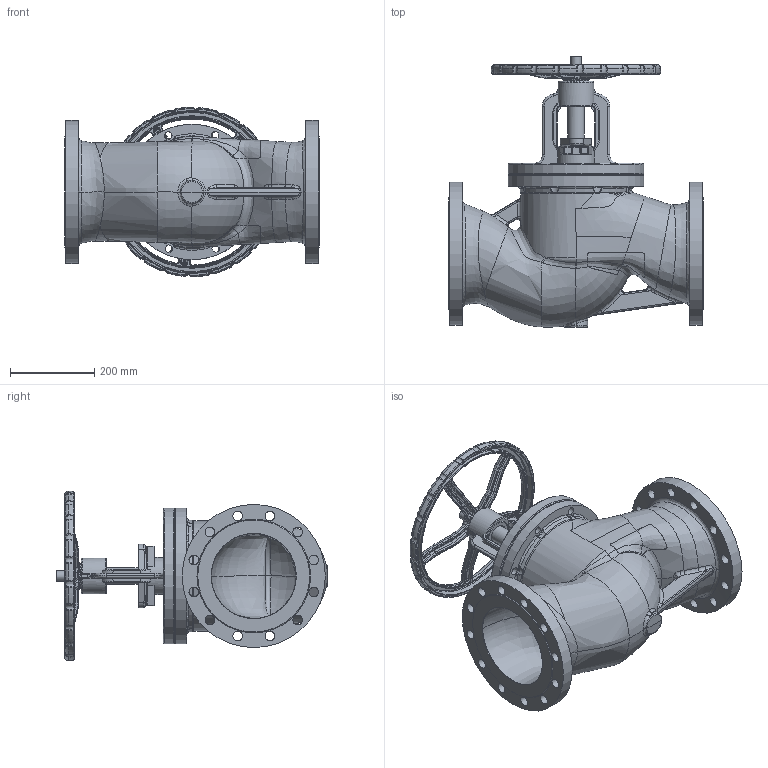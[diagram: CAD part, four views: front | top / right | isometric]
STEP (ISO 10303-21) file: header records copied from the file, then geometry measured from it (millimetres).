
FILE_DESCRIPTION(/* description */ ('STEP AP214'),/* implementation_level */ '2;1');
FILE_NAME(/* name */ '',/* time_stamp */ '2025-03-10T14:40:57+07:00',/* author */ ('Eva'),/* organization */ (''),/* preprocessor_version */ 'ST-DEVELOPER v20',/* originating_system */ 'Autodesk Inventor 2025',/* authorisation */ '');
FILE_SCHEMA (('AUTOMOTIVE_DESIGN { 1 0 10303 214 3 1 1 }'));
Products named in the file (7): 截止阀200; 200; 截止阀200阀盖; 德标截止阀杆螺母200; 德标截止压盖200; 德标截止200阀杆; YD.T-616-400.01-200-Q-手轮
Assembly tree (6 placements, depth 2):
  截止阀200
    200
    截止阀200阀盖
    德标截止阀杆螺母200
    德标截止压盖200
    德标截止200阀杆
    YD.T-616-400.01-200-Q-手轮
Bounding box: 604 x 643.5 x 402.73 mm (x, y, z)
Volume: 16184185.2 mm3; surface area: 2027822.5 mm2
Topology: 10 solids, 11 shells, 1943 faces, 5309 edges, 2911 vertices
Faces by surface type: bspline 948, plane 360, cylinder 331, torus 239, cone 36, sphere 29
Full cylindrical faces by diameter (mm): 18 x18, 23 x24, 24 x1, 27 x1, 33 x1, 36 x2, 40 x3, 40.8 x1, 44 x2, 58 x2, 60 x1, 61.556 x1, 63 x1, 68 x1, 185.679 x1, 200 x8, 202.1 x1, 203.151 x8, 225.8 x1, 226.3 x1, 230 x1, 231.8 x1, 255 x1, 322 x2, 340 x2
Entity records: 403187 total; most frequent: CARTESIAN_POINT 361758, ORIENTED_EDGE 10116, DIRECTION 6811, EDGE_CURVE 5058, VERTEX_POINT 2909, AXIS2_PLACEMENT_3D 2833, B_SPLINE_CURVE_WITH_KNOTS 2079, EDGE_LOOP 2070
